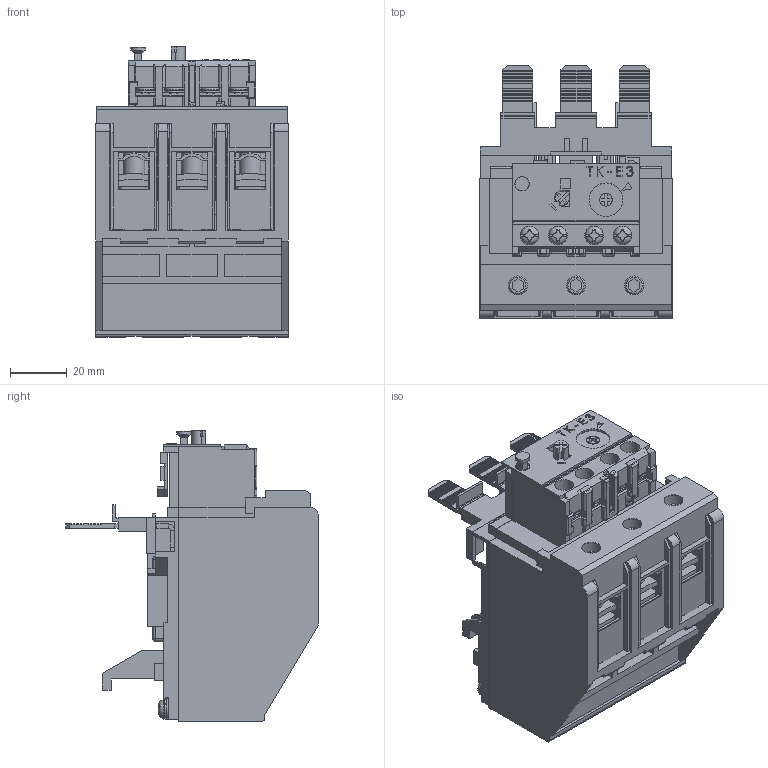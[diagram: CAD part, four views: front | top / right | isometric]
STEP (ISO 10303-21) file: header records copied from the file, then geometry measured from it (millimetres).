
FILE_DESCRIPTION (( 'STEP AP214' ), '1' );
FILE_NAME ('TK-E3.STEP', '2016-03-15T06:24:33', ( '川崎工場' ), ( '富士電機株式会社' ), 'SwSTEP 2.0', 'SolidWorks 2015', '' );
FILE_SCHEMA (( 'AUTOMOTIVE_DESIGN' ));
Length unit declared in the file: millimetre
Products named in the file (27): TK-E3_main terminal cover; TK-E3_auxiliary terminal cover; TK-E3_reset button; TK-E3_test button; TK-E3_main terminal plate; TK-E3_line plate cover; TK-E3_auxiliary terminal plate; Box terminal^TK-E3; TK-E3_scale; TK-E3_Hexagon socket screw keys_M4; TK-E3_line plate; TK-E3_Box terminal structure part; TK-E3_nameplate; Screw M4^TK-E3; TK-E3_Upper Case; Washer_M4; TK-E3_Lower Case; Springwasher_M4; Screw_M4_L8; TK-E3; Screw M3P5^TK-E3; Washer_M3P5; Screw_M3.5_L7; auxiliary terminal^TK-E3; Springwasher_M3P5; Screw_M3.5_L10; Plate_M3P5_7P8
Assembly tree (42 placements, depth 3):
  TK-E3
    TK-E3_Lower Case
    TK-E3_Upper Case
    TK-E3_nameplate
    TK-E3_line plate  x3
    TK-E3_scale
    TK-E3_auxiliary terminal plate  x4
    TK-E3_main terminal plate  x3
    TK-E3_test button
    TK-E3_reset button
    TK-E3_auxiliary terminal cover
    TK-E3_main terminal cover
    auxiliary terminal^TK-E3  x4
      Plate_M3P5_7P8
      Screw_M3.5_L10
      Springwasher_M3P5
    Screw M3P5^TK-E3  x2
      Screw_M3.5_L7
      Springwasher_M3P5
      Washer_M3P5
    Screw M4^TK-E3  x3
      Screw_M4_L8
      Springwasher_M4
      Washer_M4
    Box terminal^TK-E3  x3
      TK-E3_Box terminal structure part
      TK-E3_Hexagon socket screw keys_M4
    TK-E3_line plate cover
Bounding box: 68 x 89.2 x 102.5 mm (x, y, z)
Volume: 239713.1 mm3; surface area: 103220.9 mm2
Topology: 57 solids, 57 shells, 2056 faces, 5673 edges, 3719 vertices
Faces by surface type: plane 1723, cylinder 274, cone 22, bspline 14, sphere 12, torus 11
Full cylindrical faces by diameter (mm): 3 x6, 3.5 x20, 3.8 x2, 4 x3, 4.3 x3, 5 x2, 5.4 x6, 6.6 x4, 7 x2, 7.7 x3, 8 x3, 8.7 x3, 11.8 x2, 12 x1
Entity records: 45983 total; most frequent: CARTESIAN_POINT 9076, ORIENTED_EDGE 7640, DIRECTION 6958, EDGE_CURVE 3820, LINE 3316, VECTOR 3316, VERTEX_POINT 2527, AXIS2_PLACEMENT_3D 1821
